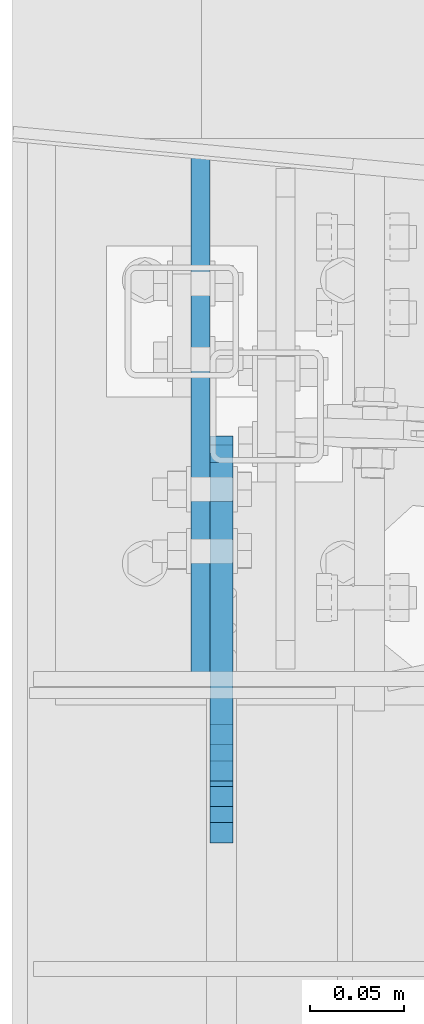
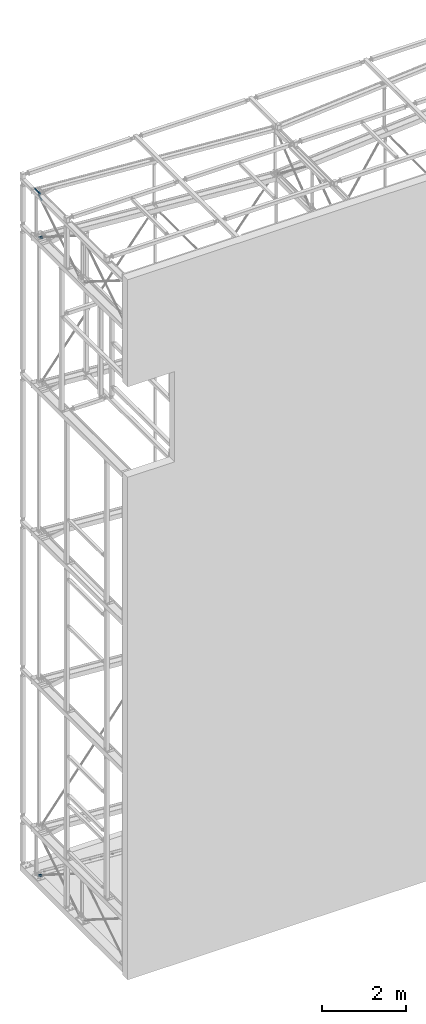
# One storey, part 137 of 271: 4 plates, 4 elements without a shape of their own.
"""IFC2X3 building model written with IfcOpenShell, lengths in millimetres."""

from ifc_helpers import new_model, si_unit, frame, origin_with_axes, place, context, subcontext, project, spatial, polyline, outline, extrude, material, type_object, element, aggregate, save


model = new_model("IFC2X3")

# Units and contexts
model_context = context("Model", 3, precision=1e-05, world=origin_with_axes())
body_context = subcontext(model_context, "Body", "Model", "MODEL_VIEW")
ifc_project = project(units=[si_unit("LENGTHUNIT", "METRE", prefix="MILLI"), si_unit("AREAUNIT", "SQUARE_METRE"), si_unit("VOLUMEUNIT", "CUBIC_METRE"), si_unit("MASSUNIT", "GRAM", prefix="KILO"), si_unit("TIMEUNIT", "SECOND"), si_unit("PLANEANGLEUNIT", "RADIAN"), si_unit("SOLIDANGLEUNIT", "STERADIAN"), si_unit("THERMODYNAMICTEMPERATUREUNIT", "DEGREE_CELSIUS"), si_unit("LUMINOUSINTENSITYUNIT", "LUMEN")], contexts=[model_context])

# Site, building, storey
site_placement = place(None, origin_with_axes())
site = spatial("IfcSite", under=ifc_project, at=site_placement, Name="Undefined", CompositionType="ELEMENT")
building_placement = place(site_placement, origin_with_axes())
building = spatial("IfcBuilding", under=site, at=building_placement, Name="Undefined", CompositionType="ELEMENT")
storey_placement = place(building_placement, origin_with_axes())
storey = spatial("IfcBuildingStorey", under=building, at=storey_placement, Name="Undefined", CompositionType="ELEMENT", Elevation=0.0)

# Assembly, plate
assembly_1_placement = place(storey_placement, origin_with_axes())
assembly_1 = element("IfcElementAssembly", 1, at=assembly_1_placement, inside=storey, AssemblyPlace="NOTDEFINED", PredefinedType="RIGID_FRAME")
ifc_material = material(Name="STEEL/S355JR")
plate_type_1 = type_object("IfcPlateType", Name="BL12*56", PredefinedType="NOTDEFINED")
plate_1_placement = place(assembly_1_placement, frame((99.0, 4241.87939075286, 24.3217108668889), z_axis=(1.0, 0.0, 0.0), x_axis=(0.0, 0.975225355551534, 0.221213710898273)))
plate_1 = element("IfcPlate", 2, at=plate_1_placement, type_object=plate_type_1, material=ifc_material, Name="BLACHA", ObjectType="BL12*56", context=body_context, shape_type="SweptSolid", body=[
    extrude(outline(polyline([(0.0, 0.0), (21.2132034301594, 1.09139364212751e-11), (39.5979804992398, 18.3847751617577), (39.5979804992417, 39.5979804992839), (-84.1457061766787, 163.341659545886), (-98.2878417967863, 149.199523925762), (-27.577165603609, 78.488853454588), (-38.8908729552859, 67.1751480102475), (-109.60155487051, 137.885818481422), (-123.743690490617, 123.743690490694), (0.0, 0.0)])), frame((0.0, 0.0, -6.0), z_axis=(0.0, 0.0, 1.0), x_axis=(1.0, 0.0, 0.0)), (0.0, 0.0, 1.0), 12.0),
])
aggregate(assembly_1, [plate_1])

assembly_2_placement = place(storey_placement, origin_with_axes())
assembly_2 = element("IfcElementAssembly", 3, at=assembly_2_placement, inside=storey, AssemblyPlace="NOTDEFINED", PredefinedType="RIGID_FRAME")
plate_2_placement = place(assembly_2_placement, frame((98.9999993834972, 4271.73672776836, 19930.0017203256), z_axis=(1.0, 0.0, 0.0), x_axis=(0.0, 0.221213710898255, 0.975225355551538)))
plate_2 = element("IfcPlate", 4, at=plate_2_placement, type_object=plate_type_1, material=ifc_material, Name="BLACHA", ObjectType="BL12*56", context=body_context, shape_type="SweptSolid", body=[
    extrude(outline(polyline([(0.0, 0.0), (21.2132034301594, 1.09139364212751e-11), (39.5979804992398, 18.3847751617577), (39.5979804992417, 39.5979804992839), (-84.1457061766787, 163.341659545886), (-98.2878417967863, 149.199523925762), (-27.577165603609, 78.488853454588), (-38.8908729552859, 67.1751480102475), (-109.60155487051, 137.885818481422), (-123.743690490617, 123.743690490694), (0.0, 0.0)])), frame((0.0, 0.0, -6.0), z_axis=(0.0, 0.0, 1.0), x_axis=(1.0, 0.0, 0.0)), (0.0, 0.0, 1.0), 12.0),
])
aggregate(assembly_2, [plate_2])

assembly_3_placement = place(storey_placement, origin_with_axes())
assembly_3 = element("IfcElementAssembly", 5, at=assembly_3_placement, inside=storey, AssemblyPlace="NOTDEFINED", PredefinedType="RIGID_FRAME")
plate_3_placement = place(assembly_3_placement, frame((98.9999993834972, 4209.11269848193, 18691.971710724), z_axis=(1.0, 0.0, 0.0), x_axis=(0.0, 0.975225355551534, 0.221213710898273)))
plate_3 = element("IfcPlate", 6, at=plate_3_placement, type_object=plate_type_1, material=ifc_material, Name="BLACHA", ObjectType="BL12*56", context=body_context, shape_type="SweptSolid", body=[
    extrude(outline(polyline([(0.0, 0.0), (21.2132034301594, 1.09139364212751e-11), (39.5979804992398, 18.3847751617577), (39.5979804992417, 39.5979804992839), (-84.1457061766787, 163.341659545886), (-98.2878417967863, 149.199523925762), (-27.577165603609, 78.488853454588), (-38.8908729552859, 67.1751480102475), (-109.60155487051, 137.885818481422), (-123.743690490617, 123.743690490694), (0.0, 0.0)])), frame((0.0, 0.0, -6.0), z_axis=(0.0, 0.0, 1.0), x_axis=(1.0, 0.0, 0.0)), (0.0, 0.0, 1.0), 12.0),
])
aggregate(assembly_3, [plate_3])

assembly_4_placement = place(storey_placement, origin_with_axes())
assembly_4 = element("IfcElementAssembly", 7, at=assembly_4_placement, inside=storey, AssemblyPlace="NOTDEFINED", PredefinedType="RIGID_FRAME")
plate_type_2 = type_object("IfcPlateType", Name="BL10*40", PredefinedType="NOTDEFINED")
plate_4_placement = place(assembly_4_placement, frame((87.9999996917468, 4144.19355050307, 20007.0), z_axis=(1.0, 0.0, 0.0), x_axis=(0.0, 1.0, 0.0)))
plate_4 = element("IfcPlate", 8, at=plate_4_placement, type_object=plate_type_2, material=ifc_material, Name="BLACHA", ObjectType="BL10*40", context=body_context, shape_type="SweptSolid", body=[
    extrude(outline(polyline([(0.0, 15.0), (15.0, -1.59872115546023e-14), (265.0, 0.0), (280.0, 15.0), (280.0, 40.0000000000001), (0.0, 40.0), (0.0, 15.0)])), frame((0.0, 0.0, -5.0), z_axis=(0.0, 0.0, 1.0), x_axis=(1.0, 0.0, 0.0)), (0.0, 0.0, 1.0), 10.0),
])
aggregate(assembly_4, [plate_4])

save(model, "model.ifc")
